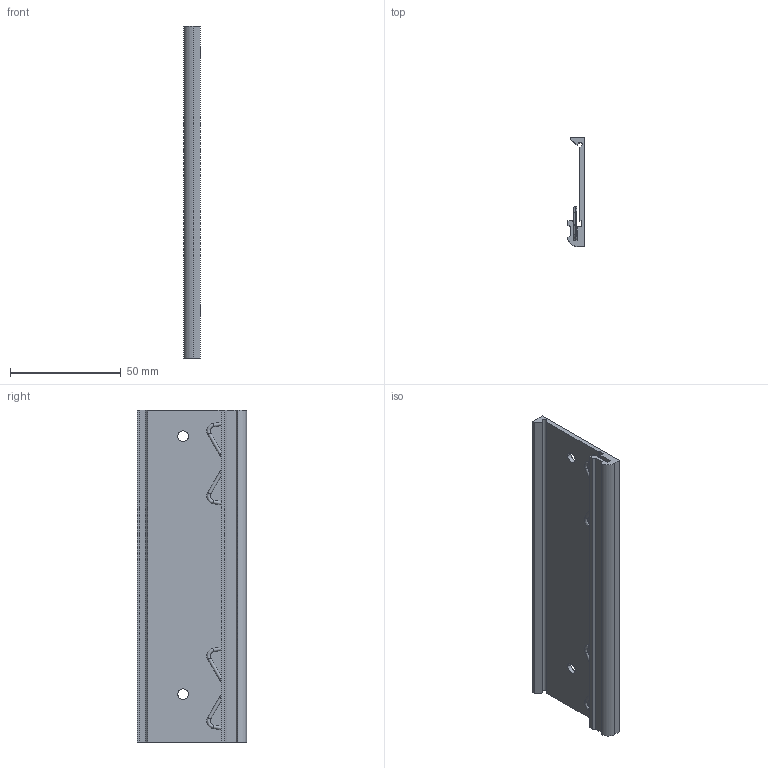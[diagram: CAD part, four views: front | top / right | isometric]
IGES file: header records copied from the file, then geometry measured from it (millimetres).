
Start section:  PTC IGES file: cu_din_smasher_4slot_w.igs
Global section: file name: cu_din_smasher_4slot_w.igs; native system: Creo Parametric by Parametric Technology Corporation; preprocessor: 2014000; author: jbuhisan; organization: Unknown; date: 20151120.141401; units: inch
Bounding box: 7.49 x 49.33 x 150 mm (x, y, z)
Surface area: 22169.5 mm2 (no closed solid volume)
Topology: 0 solids, 0 shells, 76 faces, 340 edges, 340 vertices
Faces by surface type: revolution 51, bspline 25
